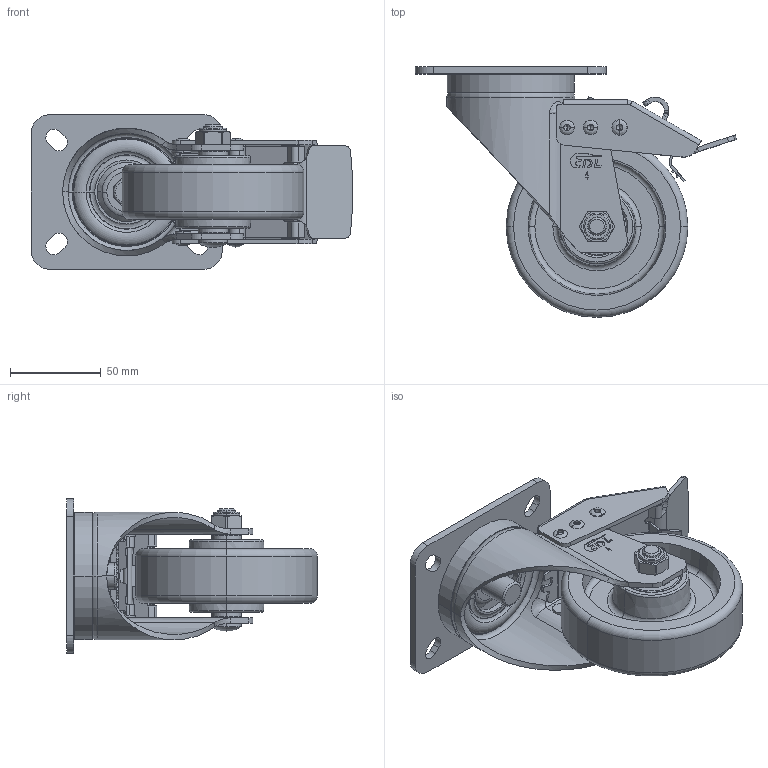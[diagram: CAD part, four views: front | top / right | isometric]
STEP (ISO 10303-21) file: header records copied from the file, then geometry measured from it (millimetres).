
FILE_DESCRIPTION((''),'2;1');
FILE_NAME('66124L-674-86A_ASM_1_ASM','2024-04-27T',('Lenovo'),(''),'PRO/ENGINEER BY PARAMETRIC TECHNOLOGY CORPORATION, 2010280','PRO/ENGINEER BY PARAMETRIC TECHNOLOGY CORPORATION, 2010280','');
FILE_SCHEMA(('CONFIG_CONTROL_DESIGN'));
Length unit declared in the file: millimetre
Products named in the file (32): 6610-201_1; 6614-311_2; 6610-051_1; 6600-734_1; 674-986AA_3; MANIFOLD_SOLID_BREP_14988; MANIFOLD_SOLID_BREP_15356; MANIFOLD_SOLID_BREP_15394; MANIFOLD_SOLID_BREP_15432; MANIFOLD_SOLID_BREP_15470; MANIFOLD_SOLID_BREP_15508; MANIFOLD_SOLID_BREP_15546; MANIFOLD_SOLID_BREP_15584; MANIFOLD_SOLID_BREP_15622; MANIFOLD_SOLID_BREP_15660; MANIFOLD_SOLID_BREP_15698; MANIFOLD_SOLID_BREP_15736; MANIFOLD_SOLID_BREP_15774; MANIFOLD_SOLID_BREP_15812; MANIFOLD_SOLID_BREP_15850; 6201_1_ASM; 500-66_3; 630-54A_1; 674-86A_ASM_1_ASM; 630-33A_3; 630-34_4; 6610L-525_2; 6610-511_2; 6630-401_4; 671-32_4; 670-32_3; 66124L-674-86A_ASM_1_ASM
Assembly tree (36 placements, depth 4):
  66124L-674-86A_ASM_1_ASM
    6610-201_1
    6614-311_2
    6610-051_1
    6600-734_1
    674-86A_ASM_1_ASM
      674-986AA_3
      6201_1_ASM  x2
        MANIFOLD_SOLID_BREP_14988
        MANIFOLD_SOLID_BREP_15356
        MANIFOLD_SOLID_BREP_15394
        MANIFOLD_SOLID_BREP_15432
        MANIFOLD_SOLID_BREP_15470
        MANIFOLD_SOLID_BREP_15508
        MANIFOLD_SOLID_BREP_15546
        MANIFOLD_SOLID_BREP_15584
        MANIFOLD_SOLID_BREP_15622
        MANIFOLD_SOLID_BREP_15660
        MANIFOLD_SOLID_BREP_15698
        MANIFOLD_SOLID_BREP_15736
        MANIFOLD_SOLID_BREP_15774
        MANIFOLD_SOLID_BREP_15812
        MANIFOLD_SOLID_BREP_15850
      500-66_3  x2
      630-54A_1
    630-33A_3
    630-34_4
    6610L-525_2
    6610-511_2
    6630-401_4
    671-32_4  x4
    670-32_3
Bounding box: 176.85 x 138 x 85 mm (x, y, z)
Volume: 279676.1 mm3; surface area: 144080.6 mm2
Topology: 48 solids, 48 shells, 822 faces, 2248 edges, 1424 vertices
Faces by surface type: plane 289, cylinder 286, torus 85, sphere 84, cone 50, bspline 28
Entity records: 25308 total; most frequent: CARTESIAN_POINT 6305, DIRECTION 4135, ORIENTED_EDGE 3768, EDGE_CURVE 1884, AXIS2_PLACEMENT_3D 1625, VERTEX_POINT 1252, VECTOR 885, LINE 885
